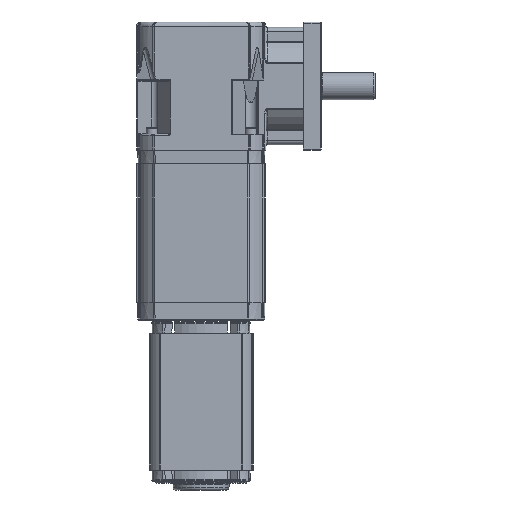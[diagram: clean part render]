
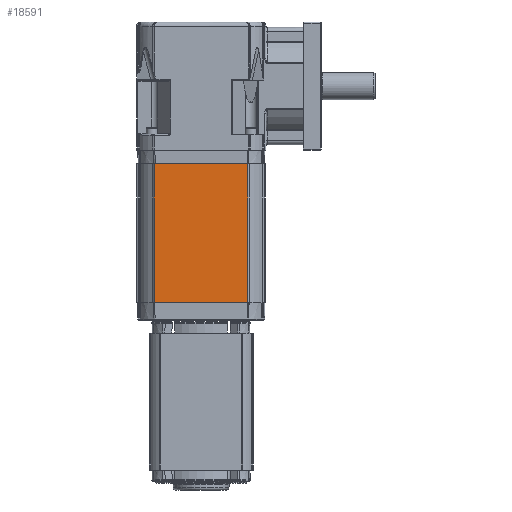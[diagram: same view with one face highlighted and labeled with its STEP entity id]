
A CAD part, front view. The second image highlights one B-rep face of the part: STEP entity #18591.
In plain terms, the highlighted planar face has unit normal (0, -1, 0).
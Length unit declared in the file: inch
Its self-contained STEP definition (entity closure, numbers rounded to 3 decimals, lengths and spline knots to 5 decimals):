
#4639 = CARTESIAN_POINT ( 'NONE',  ( -1.295, -1.7765, -2.155 ) ) ;
#5404 = LINE ( 'NONE', #22877, #65726 ) ;
#5583 = VERTEX_POINT ( 'NONE', #41878 ) ;
#6061 = VECTOR ( 'NONE', #68989, 39.37008 ) ;
#8054 = CARTESIAN_POINT ( 'NONE',  ( -1.325, -1.7765, -5.997 ) ) ;
#10471 = CARTESIAN_POINT ( 'NONE',  ( -1.325, -1.7765, -2.002 ) ) ;
#12799 = LINE ( 'NONE', #8054, #42095 ) ;
#13089 = CARTESIAN_POINT ( 'NONE',  ( 1.295, -1.7765, -5.997 ) ) ;
#13873 = DIRECTION ( 'NONE',  ( -1., 0., 0. ) ) ;
#16238 = DIRECTION ( 'NONE',  ( 0., 0., -1. ) ) ;
#17648 = LINE ( 'NONE', #59452, #50668 ) ;
#18591 = ADVANCED_FACE ( 'NONE', ( #40950 ), #27521, .T. ) ;
#20481 = ORIENTED_EDGE ( 'NONE', *, *, #45416, .F. ) ;
#21582 = LINE ( 'NONE', #4639, #6061 ) ;
#22877 = CARTESIAN_POINT ( 'NONE',  ( -1.295, -1.7765, -2.002 ) ) ;
#25932 = CARTESIAN_POINT ( 'NONE',  ( -1.295, -1.7765, -5.997 ) ) ;
#27521 = PLANE ( 'NONE',  #58694 ) ;
#33239 = ORIENTED_EDGE ( 'NONE', *, *, #47882, .T. ) ;
#35795 = VERTEX_POINT ( 'NONE', #13089 ) ;
#39200 = CARTESIAN_POINT ( 'NONE',  ( -1.295, -1.7765, -2.155 ) ) ;
#40950 = FACE_OUTER_BOUND ( 'NONE', #67710, .T. ) ;
#41878 = CARTESIAN_POINT ( 'NONE',  ( 1.295, -1.7765, -2.155 ) ) ;
#42095 = VECTOR ( 'NONE', #13873, 39.37008 ) ;
#45416 = EDGE_CURVE ( 'NONE', #35795, #62131, #12799, .T. ) ;
#46012 = ORIENTED_EDGE ( 'NONE', *, *, #49366, .T. ) ;
#46148 = DIRECTION ( 'NONE',  ( 0., 0., -1. ) ) ;
#47882 = EDGE_CURVE ( 'NONE', #52915, #62131, #5404, .T. ) ;
#49366 = EDGE_CURVE ( 'NONE', #5583, #52915, #21582, .T. ) ;
#50668 = VECTOR ( 'NONE', #65370, 39.37008 ) ;
#51346 = DIRECTION ( 'NONE',  ( 0., -1., 0. ) ) ;
#52915 = VERTEX_POINT ( 'NONE', #39200 ) ;
#55114 = ORIENTED_EDGE ( 'NONE', *, *, #72813, .T. ) ;
#58694 = AXIS2_PLACEMENT_3D ( 'NONE', #10471, #51346, #16238 ) ;
#59452 = CARTESIAN_POINT ( 'NONE',  ( 1.295, -1.7765, -2.002 ) ) ;
#62131 = VERTEX_POINT ( 'NONE', #25932 ) ;
#65370 = DIRECTION ( 'NONE',  ( 0., 0., 1. ) ) ;
#65726 = VECTOR ( 'NONE', #46148, 39.37008 ) ;
#67710 = EDGE_LOOP ( 'NONE', ( #55114, #46012, #33239, #20481 ) ) ;
#68989 = DIRECTION ( 'NONE',  ( -1., 0., 0. ) ) ;
#72813 = EDGE_CURVE ( 'NONE', #35795, #5583, #17648, .T. ) ;
